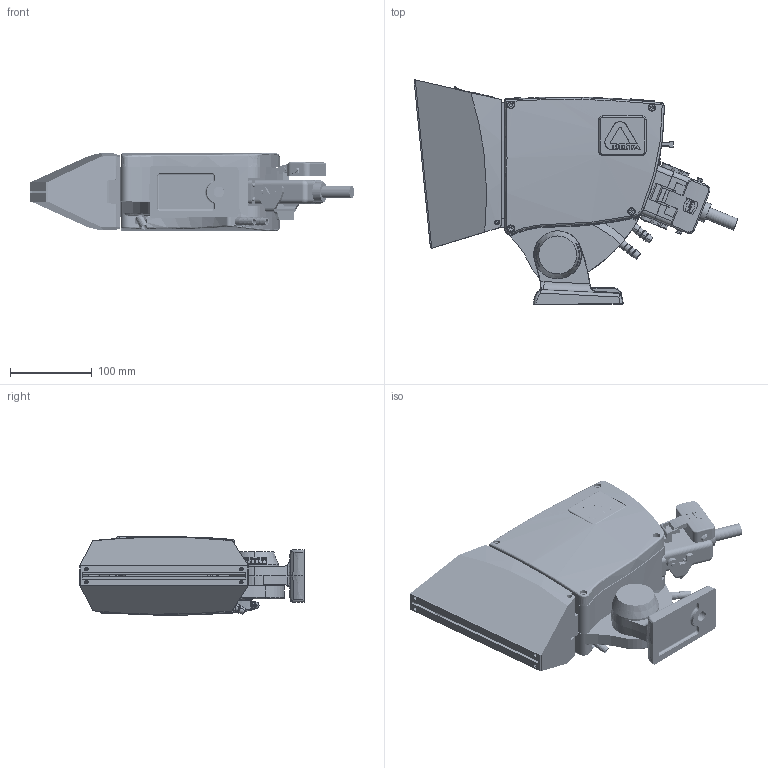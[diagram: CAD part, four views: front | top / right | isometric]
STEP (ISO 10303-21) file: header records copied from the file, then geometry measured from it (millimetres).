
FILE_DESCRIPTION (( 'STEP AP214' ), '1' );
FILE_NAME ('TS5500 Brochure marketing_STEP.STEP', '2016-11-09T10:45:33', ( '' ), ( '' ), 'SwSTEP 2.0', 'SolidWorks 2014', '' );
FILE_SCHEMA (( 'AUTOMOTIVE_DESIGN' ));
Length unit declared in the file: millimetre
Products named in the file (1): TS5500 Brochure marketing_STEP
Bounding box: 395.56 x 273.84 x 95.97 mm (x, y, z)
Volume: 3270483.4 mm3; surface area: 617660.7 mm2
Topology: 68 solids, 68 shells, 4937 faces, 12609 edges, 8131 vertices
Faces by surface type: plane 2357, cylinder 1250, bspline 772, cone 398, torus 117, sphere 43
Entity records: 246066 total; most frequent: CARTESIAN_POINT 77148, ORIENTED_EDGE 24986, DIRECTION 21030, EDGE_CURVE 12493, VERTEX_POINT 8131, AXIS2_PLACEMENT_3D 7108, VECTOR 6814, LINE 6814
